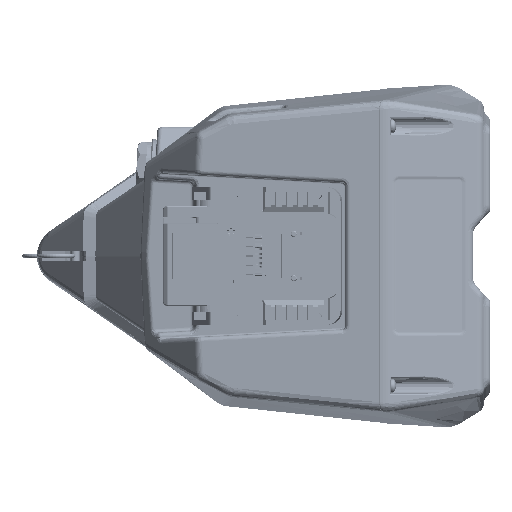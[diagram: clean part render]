
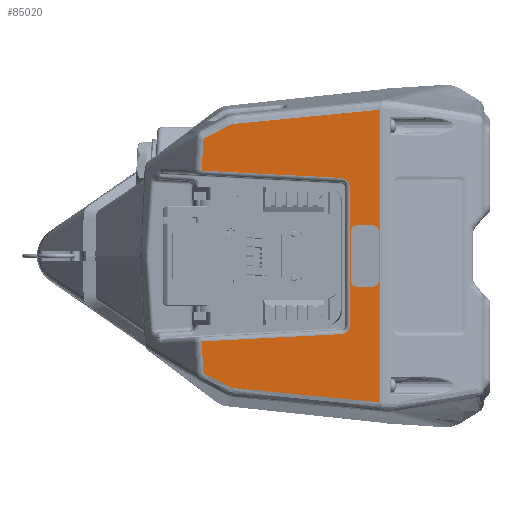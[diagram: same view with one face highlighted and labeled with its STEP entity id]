
A CAD part, left-side view. The second image highlights one B-rep face of the part: STEP entity #85020.
In plain terms, the highlighted planar face has unit normal (-0.999, 0.052, 0).
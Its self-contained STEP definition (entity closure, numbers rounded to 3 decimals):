
#62239=DIRECTION('',(0.,0.,1.));
#62240=VECTOR('',#62239,191.431);
#62241=CARTESIAN_POINT('',(-386.8,72.509,
-95.716));
#62242=LINE('',#62241,#62240);
#62243=CARTESIAN_POINT('',(-381.824,167.461,
-86.486));
#62244=CARTESIAN_POINT('',(-382.415,156.188,
-87.556));
#62245=CARTESIAN_POINT('',(-383.571,134.124,
-89.668));
#62246=CARTESIAN_POINT('',(-385.23,102.472,
-92.748));
#62247=CARTESIAN_POINT('',(-386.285,82.336,
-94.737));
#62248=CARTESIAN_POINT('',(-386.8,72.509,
-95.716));
#62250=CARTESIAN_POINT('',(-381.652,170.737,
-85.522));
#62251=CARTESIAN_POINT('',(-381.673,170.341,
-85.727));
#62252=CARTESIAN_POINT('',(-381.714,169.562,
-86.056));
#62253=CARTESIAN_POINT('',(-381.772,168.457,
-86.357));
#62254=CARTESIAN_POINT('',(-381.807,167.783,
-86.455));
#62255=CARTESIAN_POINT('',(-381.824,167.461,
-86.486));
#62257=CARTESIAN_POINT('',(-380.772,187.535,
-76.667));
#62258=CARTESIAN_POINT('',(-380.861,185.832,
-77.579));
#62259=CARTESIAN_POINT('',(-381.046,182.317,
-79.453));
#62260=CARTESIAN_POINT('',(-381.337,176.753,
-82.39));
#62261=CARTESIAN_POINT('',(-381.545,172.783,
-84.462));
#62262=CARTESIAN_POINT('',(-381.652,170.737,
-85.522));
#62264=DIRECTION('',(0.004,0.067,0.998));
#62265=VECTOR('',#62264,20.78);
#62266=CARTESIAN_POINT('',(-380.772,187.535,
-76.667));
#62267=LINE('',#62266,#62265);
#62268=DIRECTION('',(0.052,0.997,-0.052));
#62269=VECTOR('',#62268,92.119);
#62270=CARTESIAN_POINT('',(-385.513,97.069,
-51.12));
#62271=LINE('',#62270,#62269);
#62272=CARTESIAN_POINT('',(-385.786,91.857,
-45.628));
#62273=CARTESIAN_POINT('',(-385.786,91.857,
-46.145));
#62274=CARTESIAN_POINT('',(-385.779,91.999,
-47.111));
#62275=CARTESIAN_POINT('',(-385.751,92.535,
-48.383));
#62276=CARTESIAN_POINT('',(-385.711,93.299,
-49.404));
#62277=CARTESIAN_POINT('',(-385.667,94.143,
-50.131));
#62278=CARTESIAN_POINT('',(-385.621,95.003,
-50.63));
#62279=CARTESIAN_POINT('',(-385.573,95.93,
-50.973));
#62280=CARTESIAN_POINT('',(-385.534,96.672,
-51.099));
#62281=CARTESIAN_POINT('',(-385.513,97.069,
-51.12));
#62283=DIRECTION('',(0.,0.,-1.));
#62284=VECTOR('',#62283,91.255);
#62285=CARTESIAN_POINT('',(-385.786,91.857,
45.628));
#62286=LINE('',#62285,#62284);
#62287=CARTESIAN_POINT('',(-385.513,97.069,
51.12));
#62288=CARTESIAN_POINT('',(-385.54,96.55,
51.093));
#62289=CARTESIAN_POINT('',(-385.591,95.588,
50.899));
#62290=CARTESIAN_POINT('',(-385.656,94.347,
50.295));
#62291=CARTESIAN_POINT('',(-385.707,93.371,
49.479));
#62292=CARTESIAN_POINT('',(-385.743,92.691,
48.6));
#62293=CARTESIAN_POINT('',(-385.766,92.238,
47.714));
#62294=CARTESIAN_POINT('',(-385.782,91.944,
46.772));
#62295=CARTESIAN_POINT('',(-385.786,91.857,
46.025));
#62296=CARTESIAN_POINT('',(-385.786,91.857,
45.628));
#62298=DIRECTION('',(-0.052,-0.997,-0.052));
#62299=VECTOR('',#62298,92.119);
#62300=CARTESIAN_POINT('',(-380.699,188.936,
55.935));
#62301=LINE('',#62300,#62299);
#62302=DIRECTION('',(0.004,0.067,-0.998));
#62303=VECTOR('',#62302,20.78);
#62304=CARTESIAN_POINT('',(-380.772,187.535,
76.667));
#62305=LINE('',#62304,#62303);
#62306=CARTESIAN_POINT('',(-380.772,187.535,
76.667));
#62307=CARTESIAN_POINT('',(-380.861,185.834,
77.578));
#62308=CARTESIAN_POINT('',(-381.045,182.322,
79.451));
#62309=CARTESIAN_POINT('',(-381.337,176.749,
82.392));
#62310=CARTESIAN_POINT('',(-381.545,172.781,
84.463));
#62311=CARTESIAN_POINT('',(-381.652,170.737,
85.522));
#62313=CARTESIAN_POINT('',(-381.652,170.737,
85.522));
#62314=CARTESIAN_POINT('',(-381.67,170.395,
85.699));
#62315=CARTESIAN_POINT('',(-381.707,169.695,
86.006));
#62316=CARTESIAN_POINT('',(-381.765,168.596,
86.329));
#62317=CARTESIAN_POINT('',(-381.804,167.844,
86.45));
#62318=CARTESIAN_POINT('',(-381.824,167.461,
86.486));
#62320=CARTESIAN_POINT('',(-381.824,167.461,
86.486));
#62321=CARTESIAN_POINT('',(-382.415,156.188,
87.556));
#62322=CARTESIAN_POINT('',(-383.571,134.123,
89.668));
#62323=CARTESIAN_POINT('',(-385.23,102.471,
92.748));
#62324=CARTESIAN_POINT('',(-386.285,82.335,
94.738));
#62325=CARTESIAN_POINT('',(-386.8,72.509,
95.716));
#62399=CARTESIAN_POINT('',(-380.699,188.936,
-55.935));
#62418=CARTESIAN_POINT('',(-380.699,188.936,
55.935));
#71782=VERTEX_POINT('',#62313);
#71783=VERTEX_POINT('',#62318);
#71785=VERTEX_POINT('',#62250);
#71786=VERTEX_POINT('',#62255);
#71788=CARTESIAN_POINT('',(-380.772,187.535,
-76.667));
#71789=VERTEX_POINT('',#71788);
#71790=CARTESIAN_POINT('',(-380.772,187.535,
76.667));
#71791=VERTEX_POINT('',#71790);
#71802=VERTEX_POINT('',#62399);
#71820=VERTEX_POINT('',#62418);
#71822=CARTESIAN_POINT('',(-385.513,97.069,
51.12));
#71823=VERTEX_POINT('',#71822);
#71826=VERTEX_POINT('',#62296);
#71828=CARTESIAN_POINT('',(-385.786,91.857,
-45.628));
#71829=VERTEX_POINT('',#71828);
#71832=VERTEX_POINT('',#62281);
#71972=CARTESIAN_POINT('',(-386.8,72.509,
-95.716));
#71973=CARTESIAN_POINT('',(-386.8,72.509,
95.716));
#71974=VERTEX_POINT('',#71972);
#71975=VERTEX_POINT('',#71973);
#84986=CARTESIAN_POINT('',(-387.,68.7,-108.293));
#84987=DIRECTION('',(-0.999,0.052,0.));
#84988=DIRECTION('',(0.,0.,1.));
#84989=AXIS2_PLACEMENT_3D('',#84986,#84987,#84988);
#84990=PLANE('',#84989);
#84991=ORIENTED_EDGE('',*,*,#77713,.F.);
#84993=ORIENTED_EDGE('',*,*,#84992,.F.);
#84995=ORIENTED_EDGE('',*,*,#84994,.F.);
#84997=ORIENTED_EDGE('',*,*,#84996,.F.);
#84999=ORIENTED_EDGE('',*,*,#84998,.T.);
#85001=ORIENTED_EDGE('',*,*,#85000,.F.);
#85003=ORIENTED_EDGE('',*,*,#85002,.F.);
#85005=ORIENTED_EDGE('',*,*,#85004,.F.);
#85007=ORIENTED_EDGE('',*,*,#85006,.F.);
#85009=ORIENTED_EDGE('',*,*,#85008,.F.);
#85011=ORIENTED_EDGE('',*,*,#85010,.F.);
#85013=ORIENTED_EDGE('',*,*,#85012,.T.);
#85015=ORIENTED_EDGE('',*,*,#85014,.T.);
#85017=ORIENTED_EDGE('',*,*,#85016,.T.);
#85018=EDGE_LOOP('',(#84991,#84993,#84995,#84997,#84999,#85001,#85003,#85005,
#85007,#85009,#85011,#85013,#85015,#85017));
#85019=FACE_OUTER_BOUND('',#85018,.F.);
#85020=ADVANCED_FACE('',(#85019),#84990,.T.);
#62249=B_SPLINE_CURVE_WITH_KNOTS('',3,(#62243,#62244,#62245,#62246,#62247,
#62248),.UNSPECIFIED.,.F.,.F.,(4,1,1,4),(0.,0.333,
0.667,1.),.UNSPECIFIED.);
#62256=B_SPLINE_CURVE_WITH_KNOTS('',3,(#62250,#62251,#62252,#62253,#62254,
#62255),.UNSPECIFIED.,.F.,.F.,(4,1,1,4),(0.,0.333,
0.667,1.),.UNSPECIFIED.);
#62263=B_SPLINE_CURVE_WITH_KNOTS('',3,(#62257,#62258,#62259,#62260,#62261,
#62262),.UNSPECIFIED.,.F.,.F.,(4,1,1,4),(0.,0.333,
0.667,1.),.UNSPECIFIED.);
#62282=B_SPLINE_CURVE_WITH_KNOTS('',3,(#62272,#62273,#62274,#62275,#62276,
#62277,#62278,#62279,#62280,#62281),.UNSPECIFIED.,.F.,.F.,(4,1,1,1,1,1,1,4),(
0.,0.143,0.286,0.429,0.571,
0.714,0.857,1.),.UNSPECIFIED.);
#62297=B_SPLINE_CURVE_WITH_KNOTS('',3,(#62287,#62288,#62289,#62290,#62291,
#62292,#62293,#62294,#62295,#62296),.UNSPECIFIED.,.F.,.F.,(4,1,1,1,1,1,1,4),(
0.,0.143,0.286,0.429,0.571,
0.714,0.857,1.),.UNSPECIFIED.);
#62312=B_SPLINE_CURVE_WITH_KNOTS('',3,(#62306,#62307,#62308,#62309,#62310,
#62311),.UNSPECIFIED.,.F.,.F.,(4,1,1,4),(0.,0.333,
0.667,1.),.UNSPECIFIED.);
#62319=B_SPLINE_CURVE_WITH_KNOTS('',3,(#62313,#62314,#62315,#62316,#62317,
#62318),.UNSPECIFIED.,.F.,.F.,(4,1,1,4),(0.,0.333,
0.667,1.),.UNSPECIFIED.);
#62326=B_SPLINE_CURVE_WITH_KNOTS('',3,(#62320,#62321,#62322,#62323,#62324,
#62325),.UNSPECIFIED.,.F.,.F.,(4,1,1,4),(0.,0.333,
0.667,1.),.UNSPECIFIED.);
#77713=EDGE_CURVE('',#71974,#71975,#62242,.T.);
#84992=EDGE_CURVE('',#71786,#71974,#62249,.T.);
#84994=EDGE_CURVE('',#71785,#71786,#62256,.T.);
#84996=EDGE_CURVE('',#71789,#71785,#62263,.T.);
#84998=EDGE_CURVE('',#71789,#71802,#62267,.T.);
#85000=EDGE_CURVE('',#71832,#71802,#62271,.T.);
#85002=EDGE_CURVE('',#71829,#71832,#62282,.T.);
#85004=EDGE_CURVE('',#71826,#71829,#62286,.T.);
#85006=EDGE_CURVE('',#71823,#71826,#62297,.T.);
#85008=EDGE_CURVE('',#71820,#71823,#62301,.T.);
#85010=EDGE_CURVE('',#71791,#71820,#62305,.T.);
#85012=EDGE_CURVE('',#71791,#71782,#62312,.T.);
#85014=EDGE_CURVE('',#71782,#71783,#62319,.T.);
#85016=EDGE_CURVE('',#71783,#71975,#62326,.T.);
